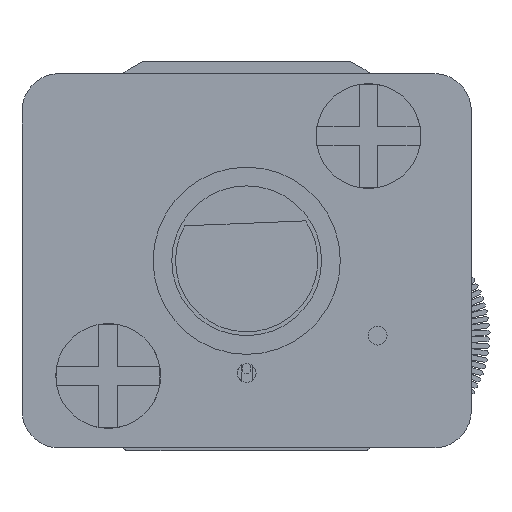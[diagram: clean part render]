
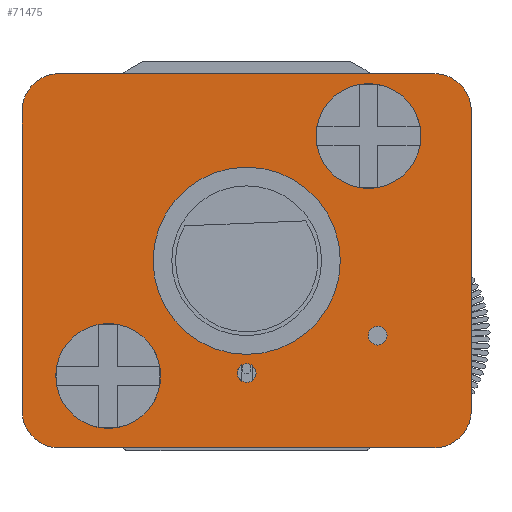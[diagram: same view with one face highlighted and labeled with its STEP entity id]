
A CAD part, left-side view. The second image highlights one B-rep face of the part: STEP entity #71475.
In plain terms, the highlighted planar face has unit normal (-1, 0, 0).
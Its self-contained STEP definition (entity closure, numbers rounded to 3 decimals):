
#177=FACE_BOUND('',#7764,.T.);
#178=FACE_BOUND('',#7765,.T.);
#179=FACE_BOUND('',#7766,.T.);
#180=FACE_BOUND('',#7767,.T.);
#181=FACE_BOUND('',#7768,.T.);
#1439=PLANE('',#75691);
#4135=FACE_OUTER_BOUND('',#7763,.T.);
#7763=EDGE_LOOP('',(#53052,#53053,#53054,#53055,#53056,#53057,#53058,#53059));
#7764=EDGE_LOOP('',(#53060));
#7765=EDGE_LOOP('',(#53061));
#7766=EDGE_LOOP('',(#53062));
#7767=EDGE_LOOP('',(#53063));
#7768=EDGE_LOOP('',(#53064));
#10128=CIRCLE('',#73846,2.5);
#10654=CIRCLE('',#75692,1.);
#10655=CIRCLE('',#75693,1.);
#10656=CIRCLE('',#75694,1.);
#10657=CIRCLE('',#75695,1.);
#10658=CIRCLE('',#75696,0.25);
#10659=CIRCLE('',#75697,0.25);
#10660=CIRCLE('',#75698,1.4);
#10661=CIRCLE('',#75699,1.4);
#15892=LINE('',#107460,#23751);
#15893=LINE('',#107464,#23752);
#15894=LINE('',#107468,#23753);
#15895=LINE('',#107472,#23754);
#23751=VECTOR('',#87029,10.);
#23752=VECTOR('',#87032,10.);
#23753=VECTOR('',#87035,10.);
#23754=VECTOR('',#87038,10.);
#28170=VERTEX_POINT('',#99554);
#30801=VERTEX_POINT('',#107458);
#30802=VERTEX_POINT('',#107459);
#30803=VERTEX_POINT('',#107461);
#30804=VERTEX_POINT('',#107463);
#30805=VERTEX_POINT('',#107465);
#30806=VERTEX_POINT('',#107467);
#30807=VERTEX_POINT('',#107469);
#30808=VERTEX_POINT('',#107471);
#30809=VERTEX_POINT('',#107474);
#30810=VERTEX_POINT('',#107476);
#30811=VERTEX_POINT('',#107478);
#30812=VERTEX_POINT('',#107480);
#34962=EDGE_CURVE('',#28170,#28170,#10128,.T.);
#38914=EDGE_CURVE('',#30801,#30802,#15892,.T.);
#38915=EDGE_CURVE('',#30802,#30803,#10654,.T.);
#38916=EDGE_CURVE('',#30803,#30804,#15893,.T.);
#38917=EDGE_CURVE('',#30804,#30805,#10655,.T.);
#38918=EDGE_CURVE('',#30805,#30806,#15894,.T.);
#38919=EDGE_CURVE('',#30806,#30807,#10656,.T.);
#38920=EDGE_CURVE('',#30807,#30808,#15895,.T.);
#38921=EDGE_CURVE('',#30808,#30801,#10657,.T.);
#38922=EDGE_CURVE('',#30809,#30809,#10658,.T.);
#38923=EDGE_CURVE('',#30810,#30810,#10659,.T.);
#38924=EDGE_CURVE('',#30811,#30811,#10660,.T.);
#38925=EDGE_CURVE('',#30812,#30812,#10661,.T.);
#53052=ORIENTED_EDGE('',*,*,#38914,.T.);
#53053=ORIENTED_EDGE('',*,*,#38915,.T.);
#53054=ORIENTED_EDGE('',*,*,#38916,.T.);
#53055=ORIENTED_EDGE('',*,*,#38917,.T.);
#53056=ORIENTED_EDGE('',*,*,#38918,.T.);
#53057=ORIENTED_EDGE('',*,*,#38919,.T.);
#53058=ORIENTED_EDGE('',*,*,#38920,.T.);
#53059=ORIENTED_EDGE('',*,*,#38921,.T.);
#53060=ORIENTED_EDGE('',*,*,#34962,.T.);
#53061=ORIENTED_EDGE('',*,*,#38922,.T.);
#53062=ORIENTED_EDGE('',*,*,#38923,.T.);
#53063=ORIENTED_EDGE('',*,*,#38924,.T.);
#53064=ORIENTED_EDGE('',*,*,#38925,.T.);
#71475=ADVANCED_FACE('',(#4135,#177,#178,#179,#180,#181),#1439,.T.);
#73846=AXIS2_PLACEMENT_3D('',#99556,#79911,#79912);
#75691=AXIS2_PLACEMENT_3D('',#107457,#87027,#87028);
#75692=AXIS2_PLACEMENT_3D('',#107462,#87030,#87031);
#75693=AXIS2_PLACEMENT_3D('',#107466,#87033,#87034);
#75694=AXIS2_PLACEMENT_3D('',#107470,#87036,#87037);
#75695=AXIS2_PLACEMENT_3D('',#107473,#87039,#87040);
#75696=AXIS2_PLACEMENT_3D('',#107475,#87041,#87042);
#75697=AXIS2_PLACEMENT_3D('',#107477,#87043,#87044);
#75698=AXIS2_PLACEMENT_3D('',#107479,#87045,#87046);
#75699=AXIS2_PLACEMENT_3D('',#107481,#87047,#87048);
#79911=DIRECTION('center_axis',(1.,0.,0.));
#79912=DIRECTION('ref_axis',(0.,0.,1.));
#87027=DIRECTION('center_axis',(-1.,0.,0.));
#87028=DIRECTION('ref_axis',(0.,0.,1.));
#87029=DIRECTION('',(0.,-1.,0.));
#87030=DIRECTION('center_axis',(-1.,0.,0.));
#87031=DIRECTION('ref_axis',(0.,0.,-1.));
#87032=DIRECTION('',(0.,0.,1.));
#87033=DIRECTION('center_axis',(-1.,0.,0.));
#87034=DIRECTION('ref_axis',(0.,-1.,0.));
#87035=DIRECTION('',(0.,1.,0.));
#87036=DIRECTION('center_axis',(-1.,0.,0.));
#87037=DIRECTION('ref_axis',(0.,0.,1.));
#87038=DIRECTION('',(0.,0.,-1.));
#87039=DIRECTION('center_axis',(-1.,0.,0.));
#87040=DIRECTION('ref_axis',(0.,1.,0.));
#87041=DIRECTION('center_axis',(1.,0.,0.));
#87042=DIRECTION('ref_axis',(0.,0.,-1.));
#87043=DIRECTION('center_axis',(1.,0.,0.));
#87044=DIRECTION('ref_axis',(0.,0.,-1.));
#87045=DIRECTION('center_axis',(1.,0.,0.));
#87046=DIRECTION('ref_axis',(0.,0.,-1.));
#87047=DIRECTION('center_axis',(1.,0.,0.));
#87048=DIRECTION('ref_axis',(0.,0.,-1.));
#99554=CARTESIAN_POINT('',(-24.9,0.,-2.5));
#99556=CARTESIAN_POINT('Origin',(-24.9,0.,0.));
#107457=CARTESIAN_POINT('Origin',(-24.9,0.,0.));
#107458=CARTESIAN_POINT('',(-24.9,5.,-5.));
#107459=CARTESIAN_POINT('',(-24.9,-5.,-5.));
#107460=CARTESIAN_POINT('',(-24.9,5.,-5.));
#107461=CARTESIAN_POINT('',(-24.9,-6.,-4.));
#107462=CARTESIAN_POINT('Origin',(-24.9,-5.,-4.));
#107463=CARTESIAN_POINT('',(-24.9,-6.,4.));
#107464=CARTESIAN_POINT('',(-24.9,-6.,-4.));
#107465=CARTESIAN_POINT('',(-24.9,-5.,5.));
#107466=CARTESIAN_POINT('Origin',(-24.9,-5.,4.));
#107467=CARTESIAN_POINT('',(-24.9,5.,5.));
#107468=CARTESIAN_POINT('',(-24.9,-5.,5.));
#107469=CARTESIAN_POINT('',(-24.9,6.,4.));
#107470=CARTESIAN_POINT('Origin',(-24.9,5.,4.));
#107471=CARTESIAN_POINT('',(-24.9,6.,-4.));
#107472=CARTESIAN_POINT('',(-24.9,6.,4.));
#107473=CARTESIAN_POINT('Origin',(-24.9,5.,-4.));
#107474=CARTESIAN_POINT('',(-24.9,-3.5,-1.75));
#107475=CARTESIAN_POINT('Origin',(-24.9,-3.5,-2.));
#107476=CARTESIAN_POINT('',(-24.9,0.,-2.75));
#107477=CARTESIAN_POINT('Origin',(-24.9,0.,-3.));
#107478=CARTESIAN_POINT('',(-24.9,-3.253,4.731));
#107479=CARTESIAN_POINT('Origin',(-24.9,-3.253,3.331));
#107480=CARTESIAN_POINT('',(-24.9,3.698,-1.677));
#107481=CARTESIAN_POINT('Origin',(-24.9,3.698,-3.077));
